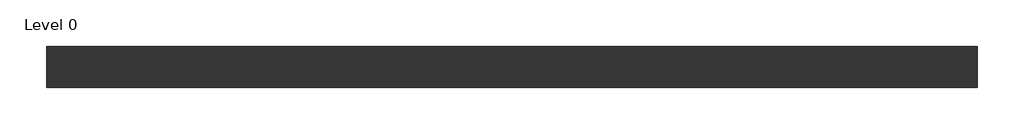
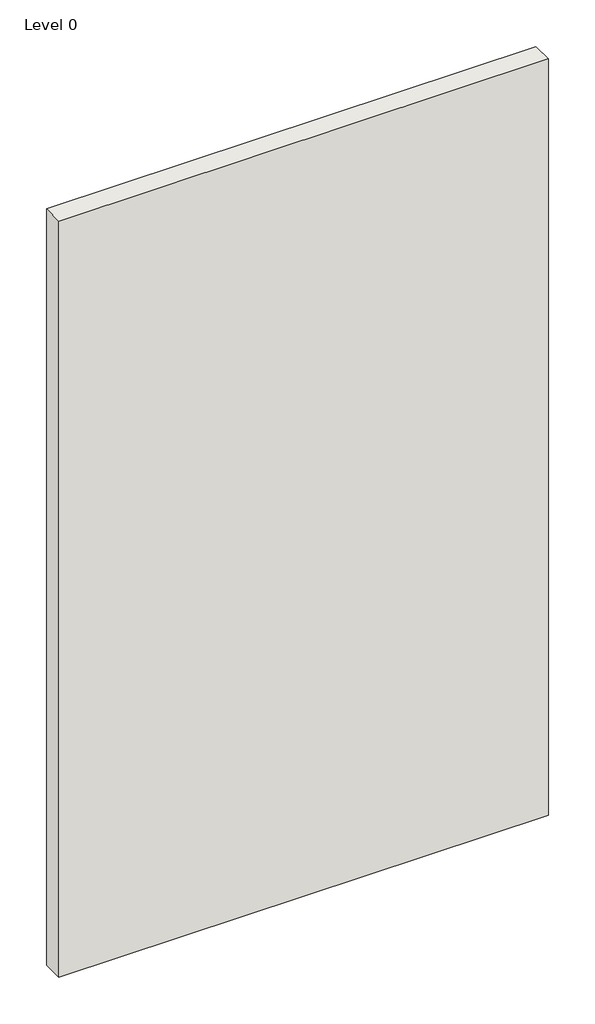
# One storey: 1 wall.
"""IFC4 building model written with IfcOpenShell, lengths in millimetres."""

import ifcopenshell
import ifcopenshell.guid

model = None  # the IFC model being written
_history = None  # IfcOwnerHistory: only IFC2X3 demands one
_inside = {}  # id of a spatial element -> (the spatial element, [elements in it])
_under = {}  # id of a project, library or spatial element -> (it, [spatial elements below it])
_declared = {}  # id of a project -> (the project, [libraries it declares])
_typed = {}  # id of a type object -> (the type object, [elements of that type])
_made_of = {}  # id of a material, layer set ... -> (it, [elements and type objects made of it])


def new_model(schema):
    """Start an empty IFC model of exactly this schema.

    Asked for "IFC4X3", IfcOpenShell would pick the latest addendum, in which some entities
    have other attributes; the version numbers below select the first issue.
    IFC2X3 requires an IfcOwnerHistory on every rooted entity: one is made here for all.
    """
    global model, _history
    if schema == "IFC4X3":
        model = ifcopenshell.file(schema_version=(4, 3, 0, 0))
    else:
        model = ifcopenshell.file(schema=schema)
    _inside.clear()
    _under.clear()
    _declared.clear()
    _typed.clear()
    _made_of.clear()
    _history = None
    if model.schema == "IFC2X3":
        org = make("IfcOrganization", Name="unknown")
        user = make(
            "IfcPersonAndOrganization",
            ThePerson=make("IfcPerson", FamilyName="unknown"),
            TheOrganization=org,
        )
        app = make(
            "IfcApplication",
            ApplicationDeveloper=org,
            Version="unknown",
            ApplicationFullName="unknown",
            ApplicationIdentifier="unknown",
        )
        _history = make(
            "IfcOwnerHistory",
            OwningUser=user,
            OwningApplication=app,
            ChangeAction="ADDED",
            CreationDate=0,
        )
    return model


def make(cls, **values):
    """One entity of the class cls with the attributes given. An attribute that is None is left unset."""
    return model.create_entity(
        cls, **{name: value for name, value in values.items() if value is not None}
    )


def rooted(cls, **values):
    """An entity with a GlobalId (a new one), such as an element, a storey or a relation."""
    return make(cls, GlobalId=ifcopenshell.guid.new(), OwnerHistory=_history, **values)


def si_unit(unit_type, name, prefix=None):
    """IfcSIUnit, for example si_unit("LENGTHUNIT", "METRE", prefix="MILLI")."""
    return make("IfcSIUnit", UnitType=unit_type, Prefix=prefix, Name=name)


def assignment(units):
    """IfcUnitAssignment: the units of a project."""
    return None if units is None else make("IfcUnitAssignment", Units=units)


def point(xyz):
    """IfcCartesianPoint."""
    return None if xyz is None else make("IfcCartesianPoint", Coordinates=xyz)


def direction(xyz):
    """IfcDirection."""
    return None if xyz is None else make("IfcDirection", DirectionRatios=xyz)


def frame(location, z_axis=None, x_axis=None):
    """IfcAxis2Placement3D, a coordinate frame: its origin and axes. An axis left out is left unset."""
    return make(
        "IfcAxis2Placement3D",
        Location=point(location),
        Axis=direction(z_axis),
        RefDirection=direction(x_axis),
    )


def origin():
    """The frame at (0, 0, 0) with its axes left unset."""
    return frame((0.0, 0.0, 0.0))


def origin_with_axes():
    """The frame at (0, 0, 0) with the z axis (0, 0, 1) and the x axis (1, 0, 0) written out."""
    return frame((0.0, 0.0, 0.0), z_axis=(0.0, 0.0, 1.0), x_axis=(1.0, 0.0, 0.0))


def place(relative_to, where):
    """IfcLocalPlacement: puts the frame where relative to a parent placement (None: the world)."""
    return make(
        "IfcLocalPlacement", PlacementRelTo=relative_to, RelativePlacement=where
    )


def context(
    kind, dimensions, precision=None, world=None, true_north=None, identifier=None
):
    """IfcGeometricRepresentationContext, for example the 3D "Model" context."""
    return make(
        "IfcGeometricRepresentationContext",
        ContextIdentifier=identifier,
        ContextType=kind,
        CoordinateSpaceDimension=dimensions,
        Precision=precision,
        WorldCoordinateSystem=world,
        TrueNorth=true_north,
    )


def project(units=None, contexts=None):
    """IfcProject with its units and contexts."""
    return rooted(
        "IfcProject",
        Name="project",
        RepresentationContexts=contexts,
        UnitsInContext=assignment(units),
    )


def spatial(cls, under=None, at=None, **own):
    """A site, building, storey or space (cls), placed at a placement, below another one or the project."""
    s = rooted(cls, ObjectPlacement=at, **own)
    if under is not None:
        _under.setdefault(under.id(), (under, []))[1].append(s)
    return s


def polyline(points):
    """IfcPolyline through the points."""
    return make("IfcPolyline", Points=[point(p) for p in points])


def outline(outer, holes=None, kind="AREA"):
    """IfcArbitraryClosedProfileDef: a profile drawn as a closed curve; with holes, ...WithVoids."""
    if holes is None:
        return make("IfcArbitraryClosedProfileDef", ProfileType=kind, OuterCurve=outer)
    return make(
        "IfcArbitraryProfileDefWithVoids",
        ProfileType=kind,
        OuterCurve=outer,
        InnerCurves=holes,
    )


def extrude(swept, where, along, depth):
    """IfcExtrudedAreaSolid: the profile swept, set in the frame where, extruded along a direction by depth."""
    return make(
        "IfcExtrudedAreaSolid",
        SweptArea=swept,
        Position=where,
        ExtrudedDirection=direction(along),
        Depth=depth,
    )


def shape(context_of_items, identifier, shape_type, items):
    """IfcShapeRepresentation: the items that make up one representation, for example the "Body"."""
    return make(
        "IfcShapeRepresentation",
        ContextOfItems=context_of_items,
        RepresentationIdentifier=identifier,
        RepresentationType=shape_type,
        Items=items,
    )


def made_of(thing, what):
    """Note that an element or type object is made of a material, layer set ...; save() writes the relation."""
    if what is not None:
        _made_of.setdefault(what.id(), (what, []))[1].append(thing)
    return thing


def element(
    cls,
    number,
    at=None,
    inside=None,
    cuts=None,
    type_object=None,
    material=None,
    context=None,
    identifier="Body",
    shape_type=None,
    held_by="IfcProductDefinitionShape",
    body=None,
    shapes=None,
    **own,
):
    """One element of the class cls, such as IfcWall. Its Tag is "e" and its number.

    at: its placement. inside: the storey or other place that contains it. cuts: it is an
    opening in that element (IfcRelVoidsElement). A single representation is given by context,
    identifier, shape_type and body (its items); several are given by shapes. held_by: the class
    of the entity that holds the representations. save() writes the other relations.
    """
    e = rooted(cls, Tag="e%d" % number, ObjectPlacement=at, **own)
    if body is not None:
        shapes = [shape(context, identifier, shape_type, body)]
    if shapes is not None:
        e.Representation = make(held_by, Representations=shapes)
    if inside is not None:
        _inside.setdefault(inside.id(), (inside, []))[1].append(e)
    if cuts is not None:
        rooted(
            "IfcRelVoidsElement", RelatingBuildingElement=cuts, RelatedOpeningElement=e
        )
    if type_object is not None:
        _typed.setdefault(type_object.id(), (type_object, []))[1].append(e)
    return made_of(e, material)


def aggregate(whole, parts):
    """IfcRelAggregates: a whole, such as a stair, and the parts it consists of."""
    return rooted("IfcRelAggregates", RelatingObject=whole, RelatedObjects=parts)


def save(model, path):
    """Write the relations noted so far, then the file.

    IfcRelAggregates (storeys below a building ...), IfcRelContainedInSpatialStructure (elements
    in a storey), IfcRelDefinesByType, IfcRelAssociatesMaterial and IfcRelDeclares: one each for
    every whole, place, type object, material and project.
    """
    for whole, parts in _under.values():
        aggregate(whole, parts)
    for where, things in _inside.values():
        rooted(
            "IfcRelContainedInSpatialStructure",
            RelatedElements=things,
            RelatingStructure=where,
        )
    for kind, things in _typed.values():
        rooted("IfcRelDefinesByType", RelatedObjects=things, RelatingType=kind)
    for what, things in _made_of.values():
        rooted("IfcRelAssociatesMaterial", RelatedObjects=things, RelatingMaterial=what)
    for by, libraries in _declared.values():
        rooted("IfcRelDeclares", RelatingContext=by, RelatedDefinitions=libraries)
    model.write(path)


model = new_model("IFC4")

# Units and contexts
model_context = context("Model", 3, world=origin())
ifc_project = project(units=[si_unit("LENGTHUNIT", "METRE", prefix="MILLI")], contexts=[model_context])

# Site, building, storey
site = spatial("IfcSite", under=ifc_project)
building = spatial("IfcBuilding", under=site)
storey = spatial("IfcBuildingStorey", under=building, Name="Level 0", Elevation=0.0)

# Wall
placement = place(None, origin())
element("IfcWall", 1, ObjectType="A206199 - GypWall Classic", at=placement, inside=storey, context=model_context, shape_type="SweptSolid", body=[
    extrude(outline(polyline([(2116.0807354, 527.7205641), (-883.9192646, 527.7205641), (-883.9192646, 659.7205641), (2116.0807354, 659.7205641), (2116.0807354, 527.7205641)])), origin_with_axes(), (0.0, 0.0, 1.0), 4900.0),
])

save(model, "model.ifc")
